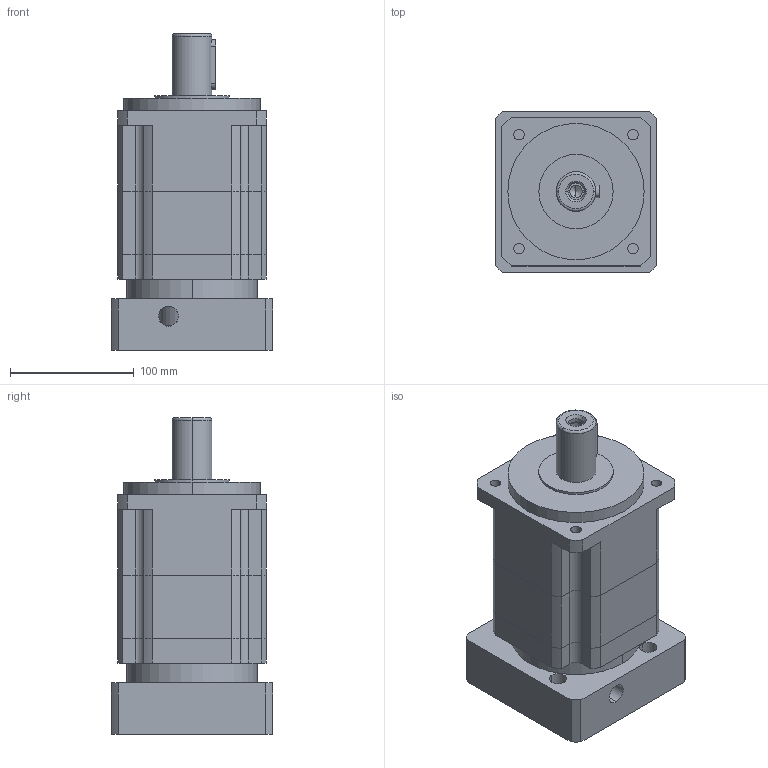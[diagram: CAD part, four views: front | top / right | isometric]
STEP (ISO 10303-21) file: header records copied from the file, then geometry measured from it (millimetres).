
FILE_DESCRIPTION (( 'STEP AP203' ), '1' );
FILE_NAME ('PAG120-L2-22-110-145.STEP', '2022-07-20T02:53:12', ( 'Windows User' ), ( 'P R C' ), 'SwSTEP 2.0', 'SolidWorks 2016', '' );
FILE_SCHEMA (( 'CONFIG_CONTROL_DESIGN' ));
Length unit declared in the file: millimetre
Products named in the file (8): PX120-二级齿圈; PAG120-L2-22-110-145; PAG120-本体齿圈; PAG120-薊粣ん_LZ03; PAG120-帣釱-LR71; 囀鞠褒蹟佪-M8℅25; 邧埴瑩 10x8x40; 粣創-6009 45x75x16
Assembly tree (7 placements, depth 2):
  PAG120-L2-22-110-145
    PAG120-本体齿圈
    PAG120-薊粣ん_LZ03
    PAG120-帣釱-LR71
    囀鞠褒蹟佪-M8℅25
    邧埴瑩 10x8x40
    粣創-6009 45x75x16
    PX120-二级齿圈
Bounding box: 130 x 130 x 255.5 mm (x, y, z)
Volume: 2411104.8 mm3; surface area: 272176.1 mm2
Topology: 7 solids, 7 shells, 1039 faces, 2867 edges, 1892 vertices
Faces by surface type: plane 576, bspline 270, cylinder 177, cone 16
Entity records: 44475 total; most frequent: CARTESIAN_POINT 18729, ORIENTED_EDGE 5706, DIRECTION 4317, EDGE_CURVE 2853, VERTEX_POINT 1888, VECTOR 1669, LINE 1669, AXIS2_PLACEMENT_3D 1324
